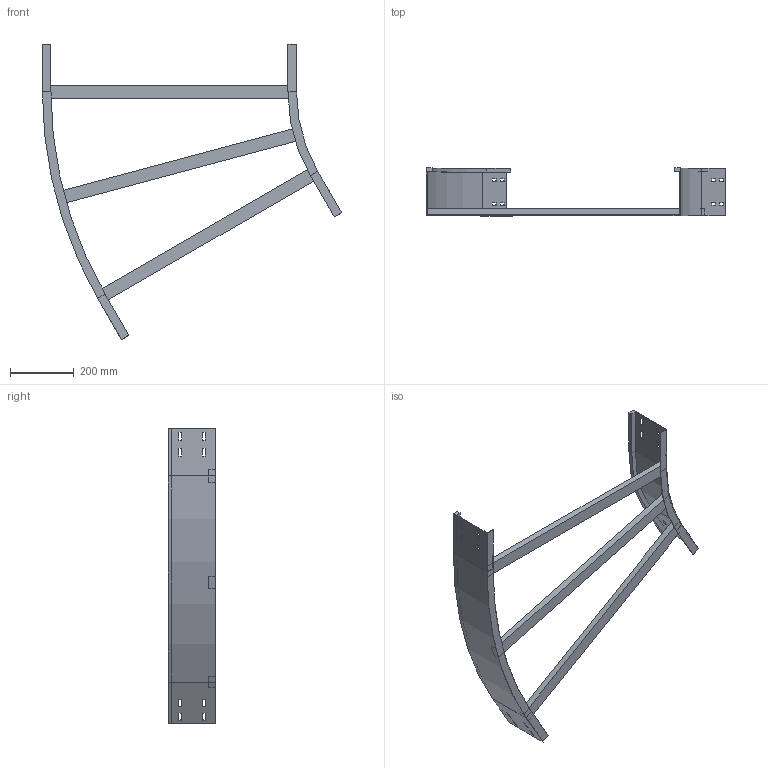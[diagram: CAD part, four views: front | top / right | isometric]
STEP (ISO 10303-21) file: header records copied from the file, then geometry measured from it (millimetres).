
FILE_DESCRIPTION (( 'STEP AP214' ), '1' );
FILE_NAME ('12J5F800.step', '2025-02-21T16:23:54', ( '' ), ( '' ), 'SwSTEP 2.0', 'SolidWorks 2023', '' );
FILE_SCHEMA (( 'AUTOMOTIVE_DESIGN' ));
Length unit declared in the file: millimetre
Products named in the file (4): 12J5F800; LONGH.ESTERNO 30°_H150_R500+800; LONGH.INTERNO 30°_H150_R500; TRAVERSINO_800
Assembly tree (5 placements, depth 2):
  12J5F800
    LONGH.INTERNO 30°_H150_R500
    LONGH.ESTERNO 30°_H150_R500+800
    TRAVERSINO_800  x3
Bounding box: 941.99 x 150 x 929.9 mm (x, y, z)
Volume: 2763103 mm3; surface area: 886348.4 mm2
Topology: 5 solids, 5 shells, 134 faces, 340 edges, 216 vertices
Faces by surface type: plane 126, cylinder 8
Entity records: 3821 total; most frequent: CARTESIAN_POINT 646, ORIENTED_EDGE 632, DIRECTION 592, EDGE_CURVE 316, LINE 300, VECTOR 300, VERTEX_POINT 200, EDGE_LOOP 154
